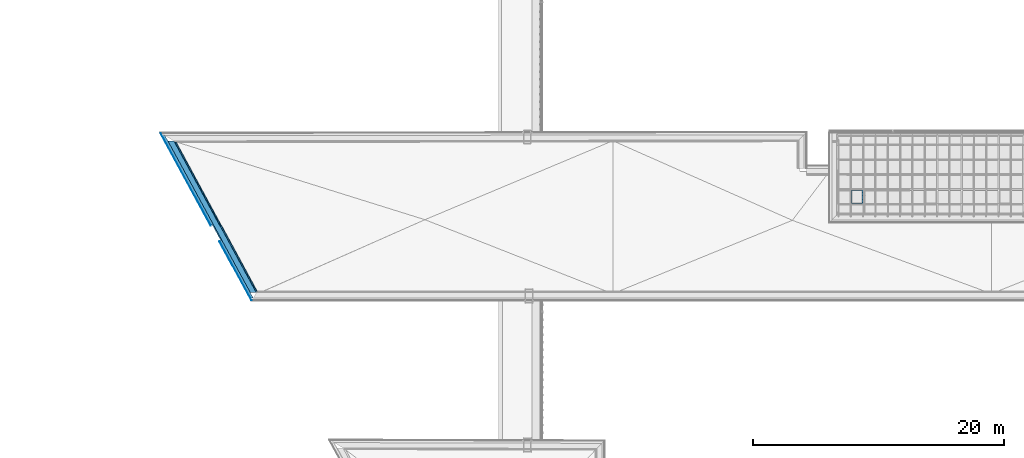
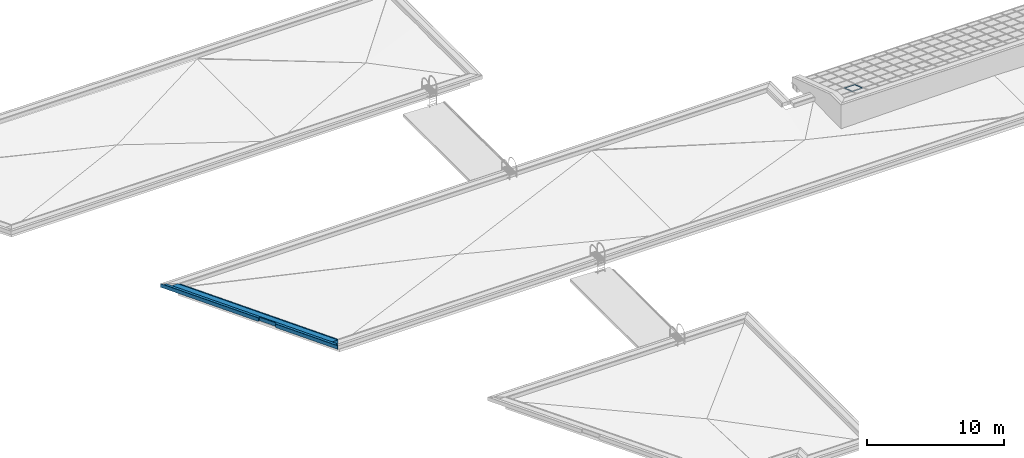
# One storey, part 21 of 47: 5 building element parts, 3 elements without a shape of their own.
"""IFC2X3 building model written with IfcOpenShell, lengths in millimetres."""

from ifc_helpers import new_model, entity, si_unit, converted_unit, derived_unit, money_unit, direction, frame, origin_with_axes, place, context, subcontext, project, spatial, polyline, outline, extrude, boolean, faceted_brep, material, type_object, element, aggregate, save


model = new_model("IFC2X3")

# Units and contexts
model_context = context("Model", 3, precision=1e-05, world=origin_with_axes(), true_north=direction((0.0, 1.0)))
body_context = subcontext(model_context, "Body", "Model", "MODEL_VIEW")
ifc_project = project(units=[si_unit("LENGTHUNIT", "METRE", prefix="MILLI"), si_unit("AREAUNIT", "SQUARE_METRE"), si_unit("VOLUMEUNIT", "CUBIC_METRE"), converted_unit("PLANEANGLEUNIT", "DEGREE", entity("IfcPlaneAngleMeasure", 0.0174532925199), si_unit("PLANEANGLEUNIT", "RADIAN"), dimensions=[0, 0, 0, 0, 0, 0, 0]), si_unit("SOLIDANGLEUNIT", "STERADIAN"), money_unit("EUR"), converted_unit("TIMEUNIT", "Year", entity("IfcTimeMeasure", 31556926.0), si_unit("TIMEUNIT", "SECOND"), dimensions=[0, 0, 1, 0, 0, 0, 0]), si_unit("MASSUNIT", "GRAM", prefix="KILO"), si_unit("THERMODYNAMICTEMPERATUREUNIT", "DEGREE_CELSIUS"), si_unit("LUMINOUSINTENSITYUNIT", "LUMEN"), si_unit("ENERGYUNIT", "JOULE", prefix="MEGA"), derived_unit("THERMALCONDUCTANCEUNIT", [(si_unit("POWERUNIT", "WATT"), 1), (si_unit("LENGTHUNIT", "METRE"), -1), (si_unit("THERMODYNAMICTEMPERATUREUNIT", "KELVIN"), -1)]), derived_unit("SPECIFICHEATCAPACITYUNIT", [(si_unit("ENERGYUNIT", "JOULE"), 1), (si_unit("MASSUNIT", "GRAM", prefix="KILO"), -1), (si_unit("THERMODYNAMICTEMPERATUREUNIT", "KELVIN"), -1)]), derived_unit("MASSDENSITYUNIT", [(si_unit("MASSUNIT", "GRAM", prefix="KILO"), 1), (si_unit("VOLUMEUNIT", "CUBIC_METRE"), -1)])], contexts=[model_context])

# Site, building, storey
site_placement = place(None, origin_with_axes())
site = spatial("IfcSite", under=ifc_project, at=site_placement, Name="Site", CompositionType="ELEMENT")
building_placement = place(site_placement, origin_with_axes())
building = spatial("IfcBuilding", under=site, at=building_placement, Name="Building", CompositionType="ELEMENT")
storey_placement = place(building_placement, frame((0.0, 0.0, 6000.0), z_axis=(0.0, 0.0, 1.0), x_axis=(1.0, 0.0, 0.0)))
storey = spatial("IfcBuildingStorey", under=building, at=storey_placement, Name="KATUSEPLAAN", CompositionType="ELEMENT", Elevation=6000.0)

# Wall, building element parts
wall_type = type_object("IfcWallType", Name="VS-4 parapett", PredefinedType="NOTDEFINED")
wall_placement = place(storey_placement, frame((17590.5379176, 34349.588146, 980.0), z_axis=(0.0, 0.0, 1.0), x_axis=(-0.47757287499, 0.878592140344, 0.0)))
wall = element("IfcWall", 1, at=wall_placement, inside=storey, type_object=wall_type, Name="VS4 parapett")
ifc_material_1 = material(Name="Soojustus - Plastik Kõva")
building_element_part_1_placement = place(wall_placement, origin_with_axes())
solid_1 = boolean("DIFFERENCE", boolean("DIFFERENCE", boolean("DIFFERENCE", boolean("DIFFERENCE", boolean("DIFFERENCE", boolean("DIFFERENCE", boolean("DIFFERENCE", boolean("DIFFERENCE", extrude(outline(polyline([(-538.419902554, -530.000000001), (15083.6220733, -530.000000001), (15083.6220733, -430.000000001), (-538.419902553, -430.000000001), (-538.419902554, -530.000000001)])), origin_with_axes(), (0.0, 0.0, 1.0), 320.0), faceted_brep([(13878.5711464, -430.0, 320.0), (13824.4036269, -530.0, 320.0), (15083.6220733, -530.000000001, 320.0), (15083.6220733, -430.000000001, 320.0), (13824.4036269, -530.0, 0.0), (13878.5711464, -430.0, 0.0), (15083.6220733, -530.000000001, 0.0), (15083.6220733, -430.000000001, 0.0)], [[[0, 1, 2, 3]], [[4, 1, 0, 5]], [[1, 4, 6, 2]], [[2, 6, 7, 3]], [[5, 0, 3, 7]], [[4, 5, 7, 6]]])), faceted_brep([(315.178629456, -530.0, 0.0), (315.178629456, -530.0, 320.0), (-538.419902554, -530.000000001, 320.0), (-538.419902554, -530.000000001, 0.0), (369.524101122, -430.0, 320.0), (369.524101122, -430.0, 0.0), (-538.419902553, -430.000000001, 320.0), (-538.419902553, -430.000000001, 0.0)], [[[0, 1, 2, 3]], [[4, 1, 0, 5]], [[1, 4, 6, 2]], [[6, 7, 3, 2]], [[5, 0, 3, 7]], [[4, 5, 7, 6]]])), faceted_brep([(14225.2197535, 0.0, 320.0), (13992.2994198, -430.0, 320.0), (15083.6220733, -430.000000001, 320.0), (15083.6220733, -4.54747350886e-10, 320.0), (13992.2994198, -430.0, 0.0), (14225.2197535, 0.0, 0.0), (15083.6220733, -430.000000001, 0.0), (15083.6220733, -4.54747350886e-10, 0.0)], [[[0, 1, 2, 3]], [[4, 1, 0, 5]], [[1, 4, 6, 2]], [[2, 6, 7, 3]], [[5, 0, 3, 7]], [[4, 5, 7, 6]]])), faceted_brep([(255.710963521, -429.999999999, 0.0), (255.710963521, -429.999999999, 320.0), (-538.419902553, -430.000000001, 320.0), (-538.419902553, -430.000000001, 0.0), (489.396491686, 4.54747350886e-10, 320.0), (489.396491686, 4.54747350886e-10, 0.0), (-538.419902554, -9.09494701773e-10, 320.0), (-538.419902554, -9.09494701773e-10, 0.0)], [[[0, 1, 2, 3]], [[4, 1, 0, 5]], [[1, 4, 6, 2]], [[6, 7, 3, 2]], [[5, 0, 3, 7]], [[4, 5, 7, 6]]])), faceted_brep([(14822.5863679, 200.0, 320.0), (14714.251329, 0.0, 320.0), (15083.6220733, -4.54747350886e-10, 320.0), (15083.6220733, 200.0, 320.0), (14714.251329, 0.0, 0.0), (14822.5863679, 200.0, 0.0), (15083.6220733, -4.54747350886e-10, 0.0), (15083.6220733, 200.0, 0.0)], [[[0, 1, 2, 3]], [[4, 1, 0, 5]], [[1, 4, 6, 2]], [[2, 6, 7, 3]], [[5, 0, 3, 7]], [[4, 5, 7, 6]]])), faceted_brep([(6685.99435871, 89.8144061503, 320.0), (6685.99435871, 199.999999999, 320.0), (5226.5905164, 200.0, 320.0), (5226.5905164, 89.8144061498, 320.0), (6685.99435871, 89.8144061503, 0.0), (6685.99435871, 199.999999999, 0.0), (5226.5905164, 200.0, 0.0), (5226.5905164, 89.8144061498, 0.0)], [[[0, 1, 2, 3]], [[1, 0, 4, 5]], [[6, 2, 1, 5]], [[3, 2, 6, 7]], [[0, 3, 7, 4]], [[7, 6, 5, 4]]])), faceted_brep([(-9.09494701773e-10, 0.0, 0.0), (-9.09494701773e-10, 0.0, 320.0), (-538.419902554, -9.09494701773e-10, 320.0), (-538.419902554, -9.09494701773e-10, 0.0), (108.690943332, 200.0, 320.0), (108.690943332, 200.0, 0.0), (-538.419902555, 200.0, 320.0), (-538.419902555, 200.0, 0.0)], [[[0, 1, 2, 3]], [[4, 1, 0, 5]], [[1, 4, 6, 2]], [[6, 7, 3, 2]], [[5, 0, 3, 7]], [[4, 5, 7, 6]]])), faceted_brep([(15060.8764186, 219.999999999, 320.0), (15050.0429147, 200.0, 320.0), (15083.6220733, 200.0, 320.0), (15083.6220733, 219.999999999, 320.0), (15050.0429147, 200.0, 0.0), (15060.8764186, 219.999999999, 0.0), (15083.6220733, 200.0, 0.0), (15083.6220733, 219.999999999, 0.0)], [[[0, 1, 2, 3]], [[4, 1, 0, 5]], [[1, 4, 6, 2]], [[2, 6, 7, 3]], [[5, 0, 3, 7]], [[4, 5, 7, 6]]]))
building_element_part_1 = element("IfcBuildingElementPart", 2, at=building_element_part_1_placement, material=ifc_material_1, Name="Soojustus - Plastik Kõva", context=body_context, shape_type="CSG", body=[
    boolean("DIFFERENCE", boolean("DIFFERENCE", solid_1, faceted_brep([(5226.5905164, 200.0, 320.0), (5226.5905164, 200.0, 0.0), (6685.99435871, 199.999999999, 0.0), (6685.99435871, 199.999999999, 320.0), (5226.5905164, 220.0, 320.0), (5226.5905164, 220.0, 0.0), (6685.99435871, 220.0, 0.0), (6685.99435871, 220.0, 320.0)], [[[0, 1, 2, 3]], [[1, 0, 4, 5]], [[1, 5, 6, 2]], [[7, 3, 2, 6]], [[4, 0, 3, 7]], [[5, 4, 7, 6]]])), faceted_brep([(-118.93533187, 200.0, 0.0), (-118.93533187, 200.0, 320.0), (-538.419902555, 200.0, 320.0), (-538.419902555, 200.0, 0.0), (-108.066237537, 220.0, 320.0), (-108.066237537, 220.0, 0.0), (-538.419902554, 219.999999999, 320.0), (-538.419902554, 219.999999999, 0.0)], [[[0, 1, 2, 3]], [[4, 1, 0, 5]], [[1, 4, 6, 2]], [[6, 7, 3, 2]], [[5, 0, 3, 7]], [[4, 5, 7, 6]]])),
])
ifc_material_2 = material(Name="Kivi - Ol.Olev Konstruktsioon")
building_element_part_2_placement = place(wall_placement, origin_with_axes())
solid_2 = boolean("DIFFERENCE", boolean("DIFFERENCE", boolean("DIFFERENCE", boolean("DIFFERENCE", boolean("DIFFERENCE", boolean("DIFFERENCE", boolean("DIFFERENCE", boolean("DIFFERENCE", extrude(outline(polyline([(-538.419902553, -430.000000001), (15083.6220733, -430.000000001), (15083.6220733, -4.54747350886e-10), (-538.419902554, -9.09494701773e-10), (-538.419902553, -430.000000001)])), origin_with_axes(), (0.0, 0.0, 1.0), 320.0), faceted_brep([(13878.5711464, -430.0, 320.0), (13824.4036269, -530.0, 320.0), (15083.6220733, -530.000000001, 320.0), (15083.6220733, -430.000000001, 320.0), (13824.4036269, -530.0, 0.0), (13878.5711464, -430.0, 0.0), (15083.6220733, -530.000000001, 0.0), (15083.6220733, -430.000000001, 0.0)], [[[0, 1, 2, 3]], [[4, 1, 0, 5]], [[1, 4, 6, 2]], [[2, 6, 7, 3]], [[5, 0, 3, 7]], [[4, 5, 7, 6]]])), faceted_brep([(315.178629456, -530.0, 0.0), (315.178629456, -530.0, 320.0), (-538.419902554, -530.000000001, 320.0), (-538.419902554, -530.000000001, 0.0), (369.524101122, -430.0, 320.0), (369.524101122, -430.0, 0.0), (-538.419902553, -430.000000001, 320.0), (-538.419902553, -430.000000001, 0.0)], [[[0, 1, 2, 3]], [[4, 1, 0, 5]], [[1, 4, 6, 2]], [[6, 7, 3, 2]], [[5, 0, 3, 7]], [[4, 5, 7, 6]]])), faceted_brep([(14225.2197535, 0.0, 320.0), (13992.2994198, -430.0, 320.0), (15083.6220733, -430.000000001, 320.0), (15083.6220733, -4.54747350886e-10, 320.0), (13992.2994198, -430.0, 0.0), (14225.2197535, 0.0, 0.0), (15083.6220733, -430.000000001, 0.0), (15083.6220733, -4.54747350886e-10, 0.0)], [[[0, 1, 2, 3]], [[4, 1, 0, 5]], [[1, 4, 6, 2]], [[2, 6, 7, 3]], [[5, 0, 3, 7]], [[4, 5, 7, 6]]])), faceted_brep([(255.710963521, -429.999999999, 0.0), (255.710963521, -429.999999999, 320.0), (-538.419902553, -430.000000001, 320.0), (-538.419902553, -430.000000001, 0.0), (489.396491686, 4.54747350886e-10, 320.0), (489.396491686, 4.54747350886e-10, 0.0), (-538.419902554, -9.09494701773e-10, 320.0), (-538.419902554, -9.09494701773e-10, 0.0)], [[[0, 1, 2, 3]], [[4, 1, 0, 5]], [[1, 4, 6, 2]], [[6, 7, 3, 2]], [[5, 0, 3, 7]], [[4, 5, 7, 6]]])), faceted_brep([(14822.5863679, 200.0, 320.0), (14714.251329, 0.0, 320.0), (15083.6220733, -4.54747350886e-10, 320.0), (15083.6220733, 200.0, 320.0), (14714.251329, 0.0, 0.0), (14822.5863679, 200.0, 0.0), (15083.6220733, -4.54747350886e-10, 0.0), (15083.6220733, 200.0, 0.0)], [[[0, 1, 2, 3]], [[4, 1, 0, 5]], [[1, 4, 6, 2]], [[2, 6, 7, 3]], [[5, 0, 3, 7]], [[4, 5, 7, 6]]])), faceted_brep([(6685.99435871, 89.8144061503, 320.0), (6685.99435871, 199.999999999, 320.0), (5226.5905164, 200.0, 320.0), (5226.5905164, 89.8144061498, 320.0), (6685.99435871, 89.8144061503, 0.0), (6685.99435871, 199.999999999, 0.0), (5226.5905164, 200.0, 0.0), (5226.5905164, 89.8144061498, 0.0)], [[[0, 1, 2, 3]], [[1, 0, 4, 5]], [[6, 2, 1, 5]], [[3, 2, 6, 7]], [[0, 3, 7, 4]], [[7, 6, 5, 4]]])), faceted_brep([(-9.09494701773e-10, 0.0, 0.0), (-9.09494701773e-10, 0.0, 320.0), (-538.419902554, -9.09494701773e-10, 320.0), (-538.419902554, -9.09494701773e-10, 0.0), (108.690943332, 200.0, 320.0), (108.690943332, 200.0, 0.0), (-538.419902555, 200.0, 320.0), (-538.419902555, 200.0, 0.0)], [[[0, 1, 2, 3]], [[4, 1, 0, 5]], [[1, 4, 6, 2]], [[6, 7, 3, 2]], [[5, 0, 3, 7]], [[4, 5, 7, 6]]])), faceted_brep([(15060.8764186, 219.999999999, 320.0), (15050.0429147, 200.0, 320.0), (15083.6220733, 200.0, 320.0), (15083.6220733, 219.999999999, 320.0), (15050.0429147, 200.0, 0.0), (15060.8764186, 219.999999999, 0.0), (15083.6220733, 200.0, 0.0), (15083.6220733, 219.999999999, 0.0)], [[[0, 1, 2, 3]], [[4, 1, 0, 5]], [[1, 4, 6, 2]], [[2, 6, 7, 3]], [[5, 0, 3, 7]], [[4, 5, 7, 6]]]))
building_element_part_2 = element("IfcBuildingElementPart", 3, at=building_element_part_2_placement, material=ifc_material_2, Name="Kivi - Ol.Olev Konstruktsioon", context=body_context, shape_type="CSG", body=[
    boolean("DIFFERENCE", boolean("DIFFERENCE", solid_2, faceted_brep([(5226.5905164, 200.0, 320.0), (5226.5905164, 200.0, 0.0), (6685.99435871, 199.999999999, 0.0), (6685.99435871, 199.999999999, 320.0), (5226.5905164, 220.0, 320.0), (5226.5905164, 220.0, 0.0), (6685.99435871, 220.0, 0.0), (6685.99435871, 220.0, 320.0)], [[[0, 1, 2, 3]], [[1, 0, 4, 5]], [[1, 5, 6, 2]], [[7, 3, 2, 6]], [[4, 0, 3, 7]], [[5, 4, 7, 6]]])), faceted_brep([(-118.93533187, 200.0, 0.0), (-118.93533187, 200.0, 320.0), (-538.419902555, 200.0, 320.0), (-538.419902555, 200.0, 0.0), (-108.066237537, 220.0, 320.0), (-108.066237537, 220.0, 0.0), (-538.419902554, 219.999999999, 320.0), (-538.419902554, 219.999999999, 0.0)], [[[0, 1, 2, 3]], [[4, 1, 0, 5]], [[1, 4, 6, 2]], [[6, 7, 3, 2]], [[5, 0, 3, 7]], [[4, 5, 7, 6]]])),
])
building_element_part_3_placement = place(wall_placement, origin_with_axes())
solid_3 = boolean("DIFFERENCE", boolean("DIFFERENCE", boolean("DIFFERENCE", boolean("DIFFERENCE", boolean("DIFFERENCE", boolean("DIFFERENCE", boolean("DIFFERENCE", boolean("DIFFERENCE", extrude(outline(polyline([(-538.419902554, -9.09494701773e-10), (15083.6220733, -4.54747350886e-10), (15083.6220733, 200.0), (-538.419902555, 200.0), (-538.419902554, -9.09494701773e-10)])), origin_with_axes(), (0.0, 0.0, 1.0), 320.0), faceted_brep([(13878.5711464, -430.0, 320.0), (13824.4036269, -530.0, 320.0), (15083.6220733, -530.000000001, 320.0), (15083.6220733, -430.000000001, 320.0), (13824.4036269, -530.0, 0.0), (13878.5711464, -430.0, 0.0), (15083.6220733, -530.000000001, 0.0), (15083.6220733, -430.000000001, 0.0)], [[[0, 1, 2, 3]], [[4, 1, 0, 5]], [[1, 4, 6, 2]], [[2, 6, 7, 3]], [[5, 0, 3, 7]], [[4, 5, 7, 6]]])), faceted_brep([(315.178629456, -530.0, 0.0), (315.178629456, -530.0, 320.0), (-538.419902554, -530.000000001, 320.0), (-538.419902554, -530.000000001, 0.0), (369.524101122, -430.0, 320.0), (369.524101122, -430.0, 0.0), (-538.419902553, -430.000000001, 320.0), (-538.419902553, -430.000000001, 0.0)], [[[0, 1, 2, 3]], [[4, 1, 0, 5]], [[1, 4, 6, 2]], [[6, 7, 3, 2]], [[5, 0, 3, 7]], [[4, 5, 7, 6]]])), faceted_brep([(14225.2197535, 0.0, 320.0), (13992.2994198, -430.0, 320.0), (15083.6220733, -430.000000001, 320.0), (15083.6220733, -4.54747350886e-10, 320.0), (13992.2994198, -430.0, 0.0), (14225.2197535, 0.0, 0.0), (15083.6220733, -430.000000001, 0.0), (15083.6220733, -4.54747350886e-10, 0.0)], [[[0, 1, 2, 3]], [[4, 1, 0, 5]], [[1, 4, 6, 2]], [[2, 6, 7, 3]], [[5, 0, 3, 7]], [[4, 5, 7, 6]]])), faceted_brep([(255.710963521, -429.999999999, 0.0), (255.710963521, -429.999999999, 320.0), (-538.419902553, -430.000000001, 320.0), (-538.419902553, -430.000000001, 0.0), (489.396491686, 4.54747350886e-10, 320.0), (489.396491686, 4.54747350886e-10, 0.0), (-538.419902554, -9.09494701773e-10, 320.0), (-538.419902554, -9.09494701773e-10, 0.0)], [[[0, 1, 2, 3]], [[4, 1, 0, 5]], [[1, 4, 6, 2]], [[6, 7, 3, 2]], [[5, 0, 3, 7]], [[4, 5, 7, 6]]])), faceted_brep([(14822.5863679, 200.0, 320.0), (14714.251329, 0.0, 320.0), (15083.6220733, -4.54747350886e-10, 320.0), (15083.6220733, 200.0, 320.0), (14714.251329, 0.0, 0.0), (14822.5863679, 200.0, 0.0), (15083.6220733, -4.54747350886e-10, 0.0), (15083.6220733, 200.0, 0.0)], [[[0, 1, 2, 3]], [[4, 1, 0, 5]], [[1, 4, 6, 2]], [[2, 6, 7, 3]], [[5, 0, 3, 7]], [[4, 5, 7, 6]]])), faceted_brep([(6685.99435871, 89.8144061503, 320.0), (6685.99435871, 199.999999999, 320.0), (5226.5905164, 200.0, 320.0), (5226.5905164, 89.8144061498, 320.0), (6685.99435871, 89.8144061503, 0.0), (6685.99435871, 199.999999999, 0.0), (5226.5905164, 200.0, 0.0), (5226.5905164, 89.8144061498, 0.0)], [[[0, 1, 2, 3]], [[1, 0, 4, 5]], [[6, 2, 1, 5]], [[3, 2, 6, 7]], [[0, 3, 7, 4]], [[7, 6, 5, 4]]])), faceted_brep([(-9.09494701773e-10, 0.0, 0.0), (-9.09494701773e-10, 0.0, 320.0), (-538.419902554, -9.09494701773e-10, 320.0), (-538.419902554, -9.09494701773e-10, 0.0), (108.690943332, 200.0, 320.0), (108.690943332, 200.0, 0.0), (-538.419902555, 200.0, 320.0), (-538.419902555, 200.0, 0.0)], [[[0, 1, 2, 3]], [[4, 1, 0, 5]], [[1, 4, 6, 2]], [[6, 7, 3, 2]], [[5, 0, 3, 7]], [[4, 5, 7, 6]]])), faceted_brep([(15060.8764186, 219.999999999, 320.0), (15050.0429147, 200.0, 320.0), (15083.6220733, 200.0, 320.0), (15083.6220733, 219.999999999, 320.0), (15050.0429147, 200.0, 0.0), (15060.8764186, 219.999999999, 0.0), (15083.6220733, 200.0, 0.0), (15083.6220733, 219.999999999, 0.0)], [[[0, 1, 2, 3]], [[4, 1, 0, 5]], [[1, 4, 6, 2]], [[2, 6, 7, 3]], [[5, 0, 3, 7]], [[4, 5, 7, 6]]]))
building_element_part_3 = element("IfcBuildingElementPart", 4, at=building_element_part_3_placement, material=ifc_material_1, Name="Soojustus - Plastik Kõva", context=body_context, shape_type="CSG", body=[
    boolean("DIFFERENCE", boolean("DIFFERENCE", solid_3, faceted_brep([(5226.5905164, 200.0, 320.0), (5226.5905164, 200.0, 0.0), (6685.99435871, 199.999999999, 0.0), (6685.99435871, 199.999999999, 320.0), (5226.5905164, 220.0, 320.0), (5226.5905164, 220.0, 0.0), (6685.99435871, 220.0, 0.0), (6685.99435871, 220.0, 320.0)], [[[0, 1, 2, 3]], [[1, 0, 4, 5]], [[1, 5, 6, 2]], [[7, 3, 2, 6]], [[4, 0, 3, 7]], [[5, 4, 7, 6]]])), faceted_brep([(-118.93533187, 200.0, 0.0), (-118.93533187, 200.0, 320.0), (-538.419902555, 200.0, 320.0), (-538.419902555, 200.0, 0.0), (-108.066237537, 220.0, 320.0), (-108.066237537, 220.0, 0.0), (-538.419902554, 219.999999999, 320.0), (-538.419902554, 219.999999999, 0.0)], [[[0, 1, 2, 3]], [[4, 1, 0, 5]], [[1, 4, 6, 2]], [[6, 7, 3, 2]], [[5, 0, 3, 7]], [[4, 5, 7, 6]]])),
])
ifc_material_3 = material(Name="Tellis - Viimistlus")
building_element_part_4_placement = place(wall_placement, origin_with_axes())
solid_4 = boolean("DIFFERENCE", boolean("DIFFERENCE", boolean("DIFFERENCE", boolean("DIFFERENCE", boolean("DIFFERENCE", boolean("DIFFERENCE", boolean("DIFFERENCE", boolean("DIFFERENCE", extrude(outline(polyline([(-538.419902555, 200.0), (15083.6220733, 200.0), (15083.6220733, 220.0), (-538.419902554, 219.999999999), (-538.419902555, 200.0)])), origin_with_axes(), (0.0, 0.0, 1.0), 320.0), faceted_brep([(13878.5711464, -430.0, 320.0), (13824.4036269, -530.0, 320.0), (15083.6220733, -530.000000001, 320.0), (15083.6220733, -430.000000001, 320.0), (13824.4036269, -530.0, 0.0), (13878.5711464, -430.0, 0.0), (15083.6220733, -530.000000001, 0.0), (15083.6220733, -430.000000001, 0.0)], [[[0, 1, 2, 3]], [[4, 1, 0, 5]], [[1, 4, 6, 2]], [[2, 6, 7, 3]], [[5, 0, 3, 7]], [[4, 5, 7, 6]]])), faceted_brep([(315.178629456, -530.0, 0.0), (315.178629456, -530.0, 320.0), (-538.419902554, -530.000000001, 320.0), (-538.419902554, -530.000000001, 0.0), (369.524101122, -430.0, 320.0), (369.524101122, -430.0, 0.0), (-538.419902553, -430.000000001, 320.0), (-538.419902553, -430.000000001, 0.0)], [[[0, 1, 2, 3]], [[4, 1, 0, 5]], [[1, 4, 6, 2]], [[6, 7, 3, 2]], [[5, 0, 3, 7]], [[4, 5, 7, 6]]])), faceted_brep([(14225.2197535, 0.0, 320.0), (13992.2994198, -430.0, 320.0), (15083.6220733, -430.000000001, 320.0), (15083.6220733, -4.54747350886e-10, 320.0), (13992.2994198, -430.0, 0.0), (14225.2197535, 0.0, 0.0), (15083.6220733, -430.000000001, 0.0), (15083.6220733, -4.54747350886e-10, 0.0)], [[[0, 1, 2, 3]], [[4, 1, 0, 5]], [[1, 4, 6, 2]], [[2, 6, 7, 3]], [[5, 0, 3, 7]], [[4, 5, 7, 6]]])), faceted_brep([(255.710963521, -429.999999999, 0.0), (255.710963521, -429.999999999, 320.0), (-538.419902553, -430.000000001, 320.0), (-538.419902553, -430.000000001, 0.0), (489.396491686, 4.54747350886e-10, 320.0), (489.396491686, 4.54747350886e-10, 0.0), (-538.419902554, -9.09494701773e-10, 320.0), (-538.419902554, -9.09494701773e-10, 0.0)], [[[0, 1, 2, 3]], [[4, 1, 0, 5]], [[1, 4, 6, 2]], [[6, 7, 3, 2]], [[5, 0, 3, 7]], [[4, 5, 7, 6]]])), faceted_brep([(14822.5863679, 200.0, 320.0), (14714.251329, 0.0, 320.0), (15083.6220733, -4.54747350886e-10, 320.0), (15083.6220733, 200.0, 320.0), (14714.251329, 0.0, 0.0), (14822.5863679, 200.0, 0.0), (15083.6220733, -4.54747350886e-10, 0.0), (15083.6220733, 200.0, 0.0)], [[[0, 1, 2, 3]], [[4, 1, 0, 5]], [[1, 4, 6, 2]], [[2, 6, 7, 3]], [[5, 0, 3, 7]], [[4, 5, 7, 6]]])), faceted_brep([(6685.99435871, 89.8144061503, 320.0), (6685.99435871, 199.999999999, 320.0), (5226.5905164, 200.0, 320.0), (5226.5905164, 89.8144061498, 320.0), (6685.99435871, 89.8144061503, 0.0), (6685.99435871, 199.999999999, 0.0), (5226.5905164, 200.0, 0.0), (5226.5905164, 89.8144061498, 0.0)], [[[0, 1, 2, 3]], [[1, 0, 4, 5]], [[6, 2, 1, 5]], [[3, 2, 6, 7]], [[0, 3, 7, 4]], [[7, 6, 5, 4]]])), faceted_brep([(-9.09494701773e-10, 0.0, 0.0), (-9.09494701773e-10, 0.0, 320.0), (-538.419902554, -9.09494701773e-10, 320.0), (-538.419902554, -9.09494701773e-10, 0.0), (108.690943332, 200.0, 320.0), (108.690943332, 200.0, 0.0), (-538.419902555, 200.0, 320.0), (-538.419902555, 200.0, 0.0)], [[[0, 1, 2, 3]], [[4, 1, 0, 5]], [[1, 4, 6, 2]], [[6, 7, 3, 2]], [[5, 0, 3, 7]], [[4, 5, 7, 6]]])), faceted_brep([(15060.8764186, 219.999999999, 320.0), (15050.0429147, 200.0, 320.0), (15083.6220733, 200.0, 320.0), (15083.6220733, 219.999999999, 320.0), (15050.0429147, 200.0, 0.0), (15060.8764186, 219.999999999, 0.0), (15083.6220733, 200.0, 0.0), (15083.6220733, 219.999999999, 0.0)], [[[0, 1, 2, 3]], [[4, 1, 0, 5]], [[1, 4, 6, 2]], [[2, 6, 7, 3]], [[5, 0, 3, 7]], [[4, 5, 7, 6]]]))
building_element_part_4 = element("IfcBuildingElementPart", 5, at=building_element_part_4_placement, material=ifc_material_3, Name="Tellis - Viimistlus", context=body_context, shape_type="CSG", body=[
    boolean("DIFFERENCE", boolean("DIFFERENCE", solid_4, faceted_brep([(5226.5905164, 200.0, 320.0), (5226.5905164, 200.0, 0.0), (6685.99435871, 199.999999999, 0.0), (6685.99435871, 199.999999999, 320.0), (5226.5905164, 220.0, 320.0), (5226.5905164, 220.0, 0.0), (6685.99435871, 220.0, 0.0), (6685.99435871, 220.0, 320.0)], [[[0, 1, 2, 3]], [[1, 0, 4, 5]], [[1, 5, 6, 2]], [[7, 3, 2, 6]], [[4, 0, 3, 7]], [[5, 4, 7, 6]]])), faceted_brep([(-118.93533187, 200.0, 0.0), (-118.93533187, 200.0, 320.0), (-538.419902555, 200.0, 320.0), (-538.419902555, 200.0, 0.0), (-108.066237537, 220.0, 320.0), (-108.066237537, 220.0, 0.0), (-538.419902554, 219.999999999, 320.0), (-538.419902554, 219.999999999, 0.0)], [[[0, 1, 2, 3]], [[4, 1, 0, 5]], [[1, 4, 6, 2]], [[6, 7, 3, 2]], [[5, 0, 3, 7]], [[4, 5, 7, 6]]])),
])
aggregate(wall, [building_element_part_1, building_element_part_2, building_element_part_3, building_element_part_4])

# Curtain wall, window, building element part
curtain_wall_type = type_object("IfcCurtainWallType", Name="KK-2", PredefinedType="NOTDEFINED")
curtain_wall_placement = place(storey_placement, frame((71638.1505463, 41358.6055567, 722.550081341), z_axis=(0.0, 0.0, 1.0), x_axis=(1.0, 0.0, 0.0)))
curtain_wall = element("IfcCurtainWall", 6, at=curtain_wall_placement, inside=storey, type_object=curtain_wall_type, Name="Talveaja klaaskatus")
window_style = type_object("IfcWindowStyle", Name="Curtain Wall Panel - Window 5 x 5 x 20", ConstructionType="NOTDEFINED", OperationType="NOTDEFINED", ParameterTakesPrecedence=False, Sizeable=False)
window_placement = place(curtain_wall_placement, frame((-5888.99750429, 1072.13073706, 1633.25276662), z_axis=(0.0, 0.0, 1.0), x_axis=(-0.999995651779, 0.00294896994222, 0.0)))
window = element("IfcWindow", 7, at=window_placement, type_object=window_style, Name="Suitsuluuk * CW Window 22")
aggregate(curtain_wall, [window])
ifc_material_4 = material(Name="Alumiinium (1)")
building_element_part_5_placement = place(window_placement, origin_with_axes())
building_element_part_5 = element("IfcBuildingElementPart", 8, at=building_element_part_5_placement, material=ifc_material_4, Name="Alumiinium (1)", context=body_context, shape_type="Brep", body=[
    faceted_brep([(466.679128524, -575.015539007, -167.906931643), (466.679128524, -576.57649527, -163.156835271), (-463.317239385, -579.051741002, -163.97023989), (-463.317239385, -577.490784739, -168.720336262), (421.553234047, -532.384609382, -153.897738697), (421.553234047, -533.945565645, -149.147642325), (-418.443487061, -536.181271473, -149.882330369), (-418.443487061, -534.620315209, -154.632426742)], [[[0, 1, 2, 3]], [[4, 5, 1, 0]], [[1, 5, 6, 2]], [[3, 2, 6, 7]], [[0, 3, 7, 4]], [[7, 6, 5, 4]]]),
    faceted_brep([(-463.317239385, -577.490784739, -168.720336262), (-463.317239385, -579.051741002, -163.97023989), (-466.679134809, 560.966932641, 210.657798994), (-466.679134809, 562.527888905, 205.907702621), (-418.443487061, -534.620315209, -154.632426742), (-418.443487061, -536.181271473, -149.882330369), (-421.553240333, 518.336003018, 196.648606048), (-421.553240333, 519.89695928, 191.898509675)], [[[0, 1, 2, 3]], [[4, 5, 1, 0]], [[1, 5, 6, 2]], [[3, 2, 6, 7]], [[0, 3, 7, 4]], [[7, 6, 5, 4]]]),
    faceted_brep([(463.3172331, 565.003134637, 206.72110724), (463.3172331, 563.442178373, 211.471203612), (418.443480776, 520.571708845, 197.383294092), (418.443480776, 522.132665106, 192.633197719), (-466.679134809, 562.527888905, 205.907702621), (-466.679134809, 560.966932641, 210.657798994), (-421.553240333, 518.336003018, 196.648606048), (-421.553240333, 519.89695928, 191.898509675)], [[[0, 1, 2, 3]], [[4, 5, 1, 0]], [[1, 5, 6, 2]], [[3, 2, 6, 7]], [[0, 3, 7, 4]], [[7, 6, 5, 4]]]),
    faceted_brep([(466.679128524, -575.015539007, -167.906931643), (466.679128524, -576.57649527, -163.156835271), (421.553234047, -533.945565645, -149.147642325), (421.553234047, -532.384609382, -153.897738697), (463.3172331, 565.003134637, 206.72110724), (463.3172331, 563.442178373, 211.471203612), (418.443480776, 520.571708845, 197.383294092), (418.443480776, 522.132665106, 192.633197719)], [[[0, 1, 2, 3]], [[4, 5, 1, 0]], [[1, 5, 6, 2]], [[3, 2, 6, 7]], [[0, 3, 7, 4]], [[7, 6, 5, 4]]]),
    faceted_brep([(466.679128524, -559.405976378, -215.407895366), (466.679128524, -575.015539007, -167.906931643), (-463.317239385, -577.490784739, -168.720336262), (-463.317239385, -561.88122211, -216.221299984), (446.623175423, -540.458896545, -209.18158739), (446.623175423, -556.068459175, -161.680623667), (-443.373349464, -558.437242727, -162.459043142), (-443.373349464, -542.827680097, -209.960006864)], [[[0, 1, 2, 3]], [[4, 5, 1, 0]], [[1, 5, 6, 2]], [[3, 2, 6, 7]], [[0, 3, 7, 4]], [[7, 6, 5, 4]]]),
    faceted_brep([(-463.317239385, -561.88122211, -216.221299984), (-463.317239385, -577.490784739, -168.720336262), (-466.679134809, 562.527888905, 205.907702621), (-466.67913481, 578.137451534, 158.406738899), (-443.373349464, -542.827680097, -209.960006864), (-443.373349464, -558.437242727, -162.459043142), (-446.623181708, 543.580809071, 199.681394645), (-446.623181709, 559.1903717, 152.180430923)], [[[0, 1, 2, 3]], [[4, 5, 1, 0]], [[1, 5, 6, 2]], [[3, 2, 6, 7]], [[0, 3, 7, 4]], [[7, 6, 5, 4]]]),
    faceted_brep([(463.3172331, 580.612697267, 159.220143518), (463.3172331, 565.003134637, 206.72110724), (443.373343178, 545.949592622, 200.45981412), (443.373343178, 561.559155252, 152.958850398), (-466.67913481, 578.137451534, 158.406738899), (-466.679134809, 562.527888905, 205.907702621), (-446.623181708, 543.580809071, 199.681394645), (-446.623181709, 559.1903717, 152.180430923)], [[[0, 1, 2, 3]], [[4, 5, 1, 0]], [[1, 5, 6, 2]], [[3, 2, 6, 7]], [[0, 3, 7, 4]], [[7, 6, 5, 4]]]),
    faceted_brep([(466.679128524, -559.405976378, -215.407895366), (466.679128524, -575.015539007, -167.906931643), (446.623175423, -556.068459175, -161.680623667), (446.623175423, -540.458896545, -209.18158739), (463.3172331, 580.612697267, 159.220143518), (463.3172331, 565.003134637, 206.72110724), (443.373343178, 545.949592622, 200.45981412), (443.373343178, 561.559155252, 152.958850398)], [[[0, 1, 2, 3]], [[4, 5, 1, 0]], [[1, 5, 6, 2]], [[3, 2, 6, 7]], [[0, 3, 7, 4]], [[7, 6, 5, 4]]]),
    faceted_brep([(496.763065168, -594.070414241, -205.746969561), (496.763065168, -600.314239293, -186.746584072), (-493.233065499, -602.949178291, -187.612466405), (-493.233065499, -596.705353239, -206.612851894), (466.679128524, -565.64980143, -196.407509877), (466.679128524, -571.89362648, -177.407124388), (-463.317239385, -574.368872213, -178.220529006), (-463.317239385, -568.125047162, -197.220914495)], [[[0, 1, 2, 3]], [[4, 5, 1, 0]], [[1, 5, 6, 2]], [[3, 2, 6, 7]], [[0, 3, 7, 4]], [[7, 6, 5, 4]]]),
    faceted_brep([(-493.233065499, -596.705353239, -206.612851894), (-493.233065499, -602.949178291, -187.612466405), (-496.763055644, 594.070412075, 205.746968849), (-496.763055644, 600.314237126, 186.74658336), (-463.317239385, -568.125047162, -197.220914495), (-463.317239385, -574.368872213, -178.220529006), (-466.679134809, 565.64980143, 196.407509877), (-466.679134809, 571.893626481, 177.407124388)], [[[0, 1, 2, 3]], [[4, 5, 1, 0]], [[1, 5, 6, 2]], [[3, 2, 6, 7]], [[0, 3, 7, 4]], [[7, 6, 5, 4]]]),
    faceted_brep([(-496.763055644, 600.314237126, 186.74658336), (-496.763055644, 594.070412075, 205.746968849), (493.233075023, 596.705351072, 206.612851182), (493.233075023, 602.949176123, 187.612465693), (-466.679134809, 571.893626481, 177.407124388), (-466.679134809, 565.64980143, 196.407509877), (463.3172331, 568.125047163, 197.220914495), (463.3172331, 574.368872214, 178.220529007)], [[[0, 1, 2, 3]], [[4, 5, 1, 0]], [[1, 5, 6, 2]], [[3, 2, 6, 7]], [[0, 3, 7, 4]], [[7, 6, 5, 4]]]),
    faceted_brep([(493.233075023, 602.949176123, 187.612465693), (493.233075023, 596.705351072, 206.612851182), (496.763065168, -600.314239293, -186.746584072), (496.763065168, -594.070414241, -205.746969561), (463.3172331, 574.368872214, 178.220529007), (463.3172331, 568.125047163, 197.220914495), (466.679128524, -571.89362648, -177.407124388), (466.679128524, -565.64980143, -196.407509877)], [[[0, 1, 2, 3]], [[4, 5, 1, 0]], [[1, 5, 6, 2]], [[3, 2, 6, 7]], [[0, 3, 7, 4]], [[7, 6, 5, 4]]]),
    faceted_brep([(401.497280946, -513.437529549, -147.671430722), (398.499590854, 503.079123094, 186.371904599), (398.499590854, 520.249641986, 134.120844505), (401.497280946, -496.267010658, -199.922490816), (446.623175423, -556.068459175, -161.680623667), (443.373343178, 545.949592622, 200.45981412), (443.373343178, 563.120111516, 148.208754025), (446.623175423, -538.897940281, -213.931683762)], [[[0, 1, 2, 3]], [[0, 4, 5, 1]], [[1, 5, 6, 2]], [[3, 2, 6, 7]], [[4, 0, 3, 7]], [[5, 4, 7, 6]]]),
    faceted_brep([(-443.373349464, -558.437242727, -162.459043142), (-446.623181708, 543.580809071, 199.681394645), (-446.623181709, 560.751327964, 147.430334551), (-443.373349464, -541.266723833, -214.710103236), (-398.499597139, -515.566773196, -148.371133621), (-401.497287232, 500.949879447, 185.672201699), (-401.497287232, 518.120398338, 133.421141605), (-398.499597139, -498.396254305, -200.622193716)], [[[0, 1, 2, 3]], [[0, 4, 5, 1]], [[1, 5, 6, 2]], [[3, 2, 6, 7]], [[4, 0, 3, 7]], [[5, 4, 7, 6]]]),
    faceted_brep([(-443.373349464, -558.437242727, -162.459043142), (-398.499597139, -515.566773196, -148.371133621), (-398.499597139, -498.396254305, -200.622193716), (-443.373349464, -541.266723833, -214.710103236), (446.623175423, -556.068459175, -161.680623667), (401.497280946, -513.437529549, -147.671430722), (401.497280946, -496.267010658, -199.922490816), (446.623175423, -538.897940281, -213.931683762)], [[[0, 1, 2, 3]], [[0, 4, 5, 1]], [[1, 5, 6, 2]], [[3, 2, 6, 7]], [[4, 0, 3, 7]], [[5, 4, 7, 6]]]),
    faceted_brep([(443.373343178, 545.949592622, 200.45981412), (398.499590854, 503.079123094, 186.371904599), (398.499590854, 520.249641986, 134.120844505), (443.373343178, 563.120111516, 148.208754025), (-446.623181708, 543.580809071, 199.681394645), (-401.497287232, 500.949879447, 185.672201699), (-401.497287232, 518.120398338, 133.421141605), (-446.623181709, 560.751327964, 147.430334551)], [[[0, 1, 2, 3]], [[0, 4, 5, 1]], [[1, 5, 6, 2]], [[3, 2, 6, 7]], [[4, 0, 3, 7]], [[5, 4, 7, 6]]]),
])
aggregate(window, [building_element_part_5])

save(model, "model.ifc")
